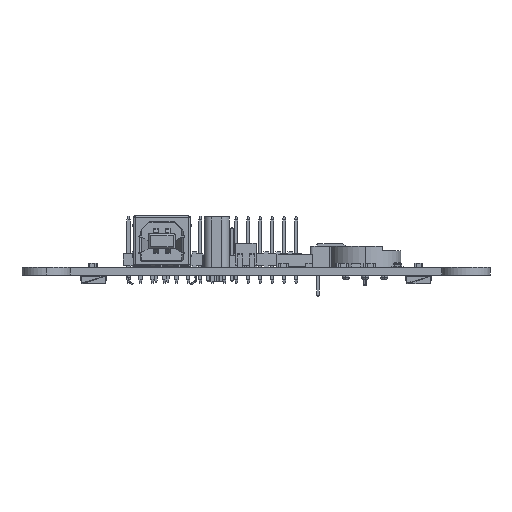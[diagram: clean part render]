
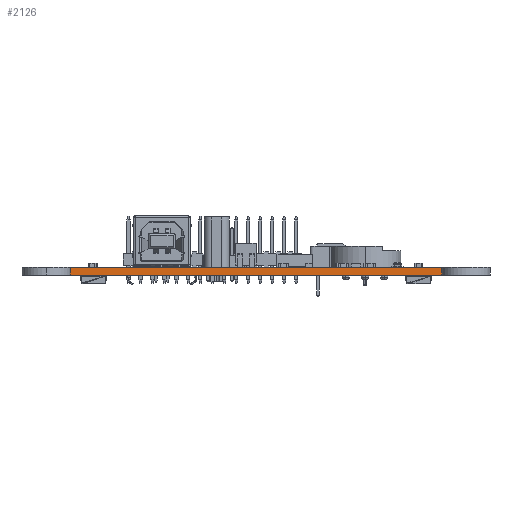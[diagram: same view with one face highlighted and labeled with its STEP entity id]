
A CAD part, front view. The second image highlights one B-rep face of the part: STEP entity #2126.
In plain terms, the highlighted planar face has unit normal (0, -1, 0).
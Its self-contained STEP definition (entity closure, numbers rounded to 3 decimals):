
#155 = CYLINDRICAL_SURFACE('',#156,5.127);
#156 = AXIS2_PLACEMENT_3D('',#157,#158,#159);
#157 = CARTESIAN_POINT('',(25.,50.,0.));
#158 = DIRECTION('',(0.,0.,-1.));
#159 = DIRECTION('',(0.999,-0.049,0.));
#184 = PLANE('',#185);
#185 = AXIS2_PLACEMENT_3D('',#186,#187,#188);
#186 = CARTESIAN_POINT('',(25.,44.873,1.646));
#187 = DIRECTION('',(0.,0.,1.));
#188 = DIRECTION('',(1.,0.,0.));
#243 = PLANE('',#244);
#244 = AXIS2_PLACEMENT_3D('',#245,#246,#247);
#245 = CARTESIAN_POINT('',(25.,44.873,0.));
#246 = DIRECTION('',(0.,0.,1.));
#247 = DIRECTION('',(1.,0.,0.));
#2003 = CYLINDRICAL_SURFACE('',#2004,5.127);
#2004 = AXIS2_PLACEMENT_3D('',#2005,#2006,#2007);
#2005 = CARTESIAN_POINT('',(114.,50.,0.));
#2006 = DIRECTION('',(0.,0.,-1.));
#2007 = DIRECTION('',(0.043,0.999,0.));
#2046 = VERTEX_POINT('',#2047);
#2047 = CARTESIAN_POINT('',(108.879,49.75,1.646));
#2073 = EDGE_CURVE('',#2074,#2046,#2076,.T.);
#2074 = VERTEX_POINT('',#2075);
#2075 = CARTESIAN_POINT('',(108.879,49.75,0.));
#2076 = SURFACE_CURVE('',#2077,(#2081,#2088),.PCURVE_S1.);
#2077 = LINE('',#2078,#2079);
#2078 = CARTESIAN_POINT('',(108.879,49.75,0.));
#2079 = VECTOR('',#2080,1.);
#2080 = DIRECTION('',(0.,0.,1.));
#2081 = PCURVE('',#2003,#2082);
#2082 = DEFINITIONAL_REPRESENTATION('',(#2083),#2087);
#2083 = LINE('',#2084,#2085);
#2084 = CARTESIAN_POINT('',(4.621,0.));
#2085 = VECTOR('',#2086,1.);
#2086 = DIRECTION('',(0.,-1.));
#2087 = ( GEOMETRIC_REPRESENTATION_CONTEXT(2) 
PARAMETRIC_REPRESENTATION_CONTEXT() REPRESENTATION_CONTEXT('2D SPACE',''
  ) );
#2088 = PCURVE('',#2089,#2094);
#2089 = PLANE('',#2090);
#2090 = AXIS2_PLACEMENT_3D('',#2091,#2092,#2093);
#2091 = CARTESIAN_POINT('',(108.879,49.75,0.));
#2092 = DIRECTION('',(0.,-1.,0.));
#2093 = DIRECTION('',(-1.,0.,0.));
#2094 = DEFINITIONAL_REPRESENTATION('',(#2095),#2099);
#2095 = LINE('',#2096,#2097);
#2096 = CARTESIAN_POINT('',(0.,0.));
#2097 = VECTOR('',#2098,1.);
#2098 = DIRECTION('',(0.,-1.));
#2099 = ( GEOMETRIC_REPRESENTATION_CONTEXT(2) 
PARAMETRIC_REPRESENTATION_CONTEXT() REPRESENTATION_CONTEXT('2D SPACE',''
  ) );
#2126 = ADVANCED_FACE('',(#2127),#2089,.T.);
#2127 = FACE_BOUND('',#2128,.T.);
#2128 = EDGE_LOOP('',(#2129,#2130,#2153,#2176));
#2129 = ORIENTED_EDGE('',*,*,#2073,.T.);
#2130 = ORIENTED_EDGE('',*,*,#2131,.T.);
#2131 = EDGE_CURVE('',#2046,#2132,#2134,.T.);
#2132 = VERTEX_POINT('',#2133);
#2133 = CARTESIAN_POINT('',(30.121,49.75,1.646));
#2134 = SURFACE_CURVE('',#2135,(#2139,#2146),.PCURVE_S1.);
#2135 = LINE('',#2136,#2137);
#2136 = CARTESIAN_POINT('',(108.879,49.75,1.646));
#2137 = VECTOR('',#2138,1.);
#2138 = DIRECTION('',(-1.,0.,0.));
#2139 = PCURVE('',#2089,#2140);
#2140 = DEFINITIONAL_REPRESENTATION('',(#2141),#2145);
#2141 = LINE('',#2142,#2143);
#2142 = CARTESIAN_POINT('',(0.,-1.646));
#2143 = VECTOR('',#2144,1.);
#2144 = DIRECTION('',(1.,0.));
#2145 = ( GEOMETRIC_REPRESENTATION_CONTEXT(2) 
PARAMETRIC_REPRESENTATION_CONTEXT() REPRESENTATION_CONTEXT('2D SPACE',''
  ) );
#2146 = PCURVE('',#184,#2147);
#2147 = DEFINITIONAL_REPRESENTATION('',(#2148),#2152);
#2148 = LINE('',#2149,#2150);
#2149 = CARTESIAN_POINT('',(83.879,4.877));
#2150 = VECTOR('',#2151,1.);
#2151 = DIRECTION('',(-1.,0.));
#2152 = ( GEOMETRIC_REPRESENTATION_CONTEXT(2) 
PARAMETRIC_REPRESENTATION_CONTEXT() REPRESENTATION_CONTEXT('2D SPACE',''
  ) );
#2153 = ORIENTED_EDGE('',*,*,#2154,.F.);
#2154 = EDGE_CURVE('',#2155,#2132,#2157,.T.);
#2155 = VERTEX_POINT('',#2156);
#2156 = CARTESIAN_POINT('',(30.121,49.75,0.));
#2157 = SURFACE_CURVE('',#2158,(#2162,#2169),.PCURVE_S1.);
#2158 = LINE('',#2159,#2160);
#2159 = CARTESIAN_POINT('',(30.121,49.75,0.));
#2160 = VECTOR('',#2161,1.);
#2161 = DIRECTION('',(0.,0.,1.));
#2162 = PCURVE('',#2089,#2163);
#2163 = DEFINITIONAL_REPRESENTATION('',(#2164),#2168);
#2164 = LINE('',#2165,#2166);
#2165 = CARTESIAN_POINT('',(78.757,0.));
#2166 = VECTOR('',#2167,1.);
#2167 = DIRECTION('',(0.,-1.));
#2168 = ( GEOMETRIC_REPRESENTATION_CONTEXT(2) 
PARAMETRIC_REPRESENTATION_CONTEXT() REPRESENTATION_CONTEXT('2D SPACE',''
  ) );
#2169 = PCURVE('',#155,#2170);
#2170 = DEFINITIONAL_REPRESENTATION('',(#2171),#2175);
#2171 = LINE('',#2172,#2173);
#2172 = CARTESIAN_POINT('',(0.,0.));
#2173 = VECTOR('',#2174,1.);
#2174 = DIRECTION('',(0.,-1.));
#2175 = ( GEOMETRIC_REPRESENTATION_CONTEXT(2) 
PARAMETRIC_REPRESENTATION_CONTEXT() REPRESENTATION_CONTEXT('2D SPACE',''
  ) );
#2176 = ORIENTED_EDGE('',*,*,#2177,.F.);
#2177 = EDGE_CURVE('',#2074,#2155,#2178,.T.);
#2178 = SURFACE_CURVE('',#2179,(#2183,#2190),.PCURVE_S1.);
#2179 = LINE('',#2180,#2181);
#2180 = CARTESIAN_POINT('',(108.879,49.75,0.));
#2181 = VECTOR('',#2182,1.);
#2182 = DIRECTION('',(-1.,0.,0.));
#2183 = PCURVE('',#2089,#2184);
#2184 = DEFINITIONAL_REPRESENTATION('',(#2185),#2189);
#2185 = LINE('',#2186,#2187);
#2186 = CARTESIAN_POINT('',(0.,0.));
#2187 = VECTOR('',#2188,1.);
#2188 = DIRECTION('',(1.,0.));
#2189 = ( GEOMETRIC_REPRESENTATION_CONTEXT(2) 
PARAMETRIC_REPRESENTATION_CONTEXT() REPRESENTATION_CONTEXT('2D SPACE',''
  ) );
#2190 = PCURVE('',#243,#2191);
#2191 = DEFINITIONAL_REPRESENTATION('',(#2192),#2196);
#2192 = LINE('',#2193,#2194);
#2193 = CARTESIAN_POINT('',(83.879,4.877));
#2194 = VECTOR('',#2195,1.);
#2195 = DIRECTION('',(-1.,0.));
#2196 = ( GEOMETRIC_REPRESENTATION_CONTEXT(2) 
PARAMETRIC_REPRESENTATION_CONTEXT() REPRESENTATION_CONTEXT('2D SPACE',''
  ) );
